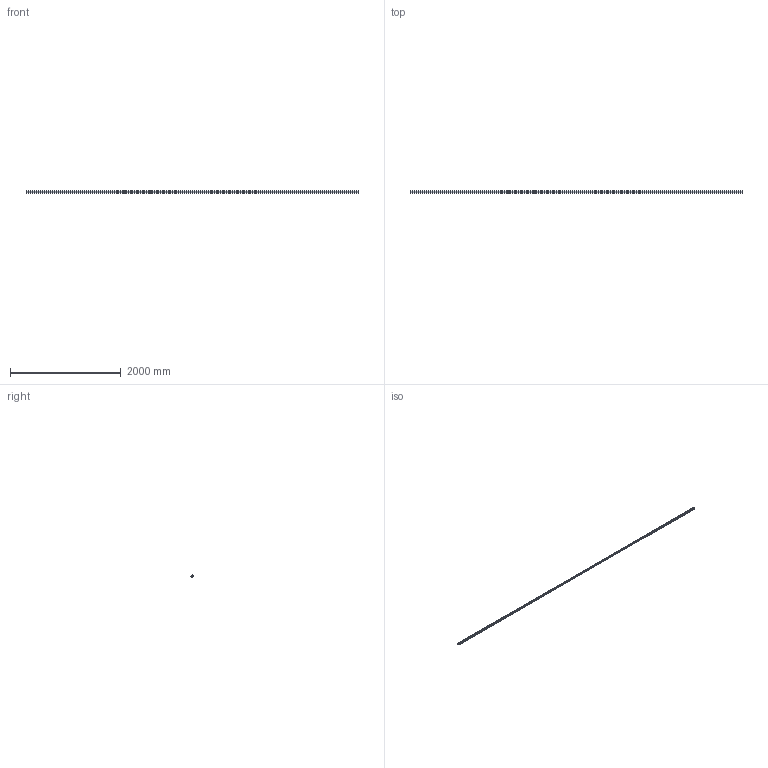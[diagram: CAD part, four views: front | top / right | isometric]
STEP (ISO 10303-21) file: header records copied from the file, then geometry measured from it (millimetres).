
FILE_DESCRIPTION (( 'STEP AP203' ), '1' );
FILE_NAME ('20206600_Profil 8 40x40 45°_0.step', '2021-06-19T07:53:58', ( '' ), ( '' ), 'SwSTEP 2.0', 'SolidWorks 2021', '' );
FILE_SCHEMA (( 'CONFIG_CONTROL_DESIGN' ));
Length unit declared in the file: millimetre
Products named in the file (1): 20206600_Profil 8 40x40 45起0
Bounding box: 6000 x 40 x 40 mm (x, y, z)
Volume: 4450716.3 mm3; surface area: 1798961.1 mm2
Topology: 1 solids, 1 shells, 64 faces, 186 edges, 124 vertices
Faces by surface type: cylinder 37, plane 27
Entity records: 2233 total; most frequent: DIRECTION 390, CARTESIAN_POINT 375, ORIENTED_EDGE 372, EDGE_CURVE 186, AXIS2_PLACEMENT_3D 139, VERTEX_POINT 124, VECTOR 112, LINE 112
